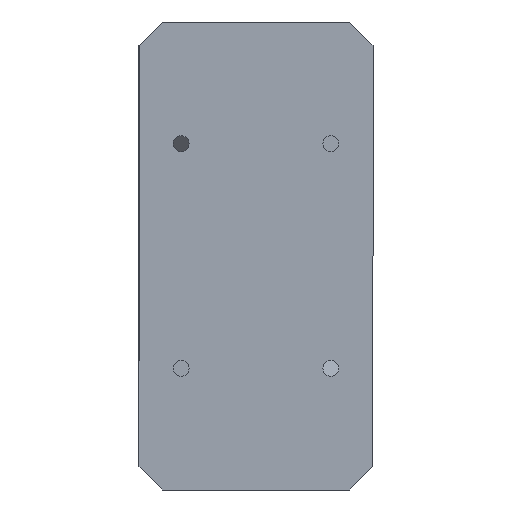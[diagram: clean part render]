
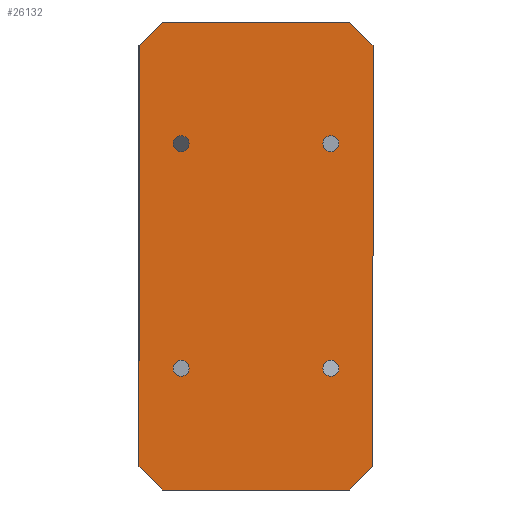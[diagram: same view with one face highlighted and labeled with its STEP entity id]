
A CAD part, front view. The second image highlights one B-rep face of the part: STEP entity #26132.
In plain terms, the highlighted planar face has unit normal (0, -1, 0) as drawn and (0, 0, 1) by its records, which use the part's own axes.
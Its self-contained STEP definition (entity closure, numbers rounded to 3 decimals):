
#1134=FACE_BOUND('',#5250,.T.);
#1135=FACE_BOUND('',#5251,.T.);
#1136=FACE_BOUND('',#5252,.T.);
#1137=FACE_BOUND('',#5253,.T.);
#1956=PLANE('',#28592);
#3701=FACE_OUTER_BOUND('',#5249,.T.);
#5249=EDGE_LOOP('',(#24656,#24657,#24658,#24659,#24660,#24661,#24662,#24663));
#5250=EDGE_LOOP('',(#24664));
#5251=EDGE_LOOP('',(#24665));
#5252=EDGE_LOOP('',(#24666));
#5253=EDGE_LOOP('',(#24667));
#7571=LINE('',#47317,#10106);
#7584=LINE('',#47357,#10119);
#7587=LINE('',#47362,#10122);
#7589=LINE('',#47366,#10124);
#7595=LINE('',#47378,#10130);
#7614=LINE('',#47427,#10149);
#7733=LINE('',#47812,#10268);
#7794=LINE('',#47945,#10329);
#10106=VECTOR('',#34753,10.);
#10119=VECTOR('',#34792,10.);
#10122=VECTOR('',#34797,10.);
#10124=VECTOR('',#34801,10.);
#10130=VECTOR('',#34809,10.);
#10149=VECTOR('',#34856,10.);
#10268=VECTOR('',#35257,10.);
#10329=VECTOR('',#35394,10.);
#11097=CIRCLE('',#28481,1.7);
#11101=CIRCLE('',#28488,1.7);
#11105=CIRCLE('',#28495,1.7);
#11109=CIRCLE('',#28502,1.7);
#13339=VERTEX_POINT('',#47314);
#13340=VERTEX_POINT('',#47316);
#13353=VERTEX_POINT('',#47354);
#13354=VERTEX_POINT('',#47356);
#13355=VERTEX_POINT('',#47360);
#13356=VERTEX_POINT('',#47364);
#13361=VERTEX_POINT('',#47376);
#13447=VERTEX_POINT('',#47622);
#13451=VERTEX_POINT('',#47635);
#13455=VERTEX_POINT('',#47648);
#13459=VERTEX_POINT('',#47661);
#13502=VERTEX_POINT('',#47810);
#16940=EDGE_CURVE('',#13340,#13339,#7571,.T.);
#16959=EDGE_CURVE('',#13353,#13354,#7584,.T.);
#16962=EDGE_CURVE('',#13353,#13355,#7587,.T.);
#16964=EDGE_CURVE('',#13356,#13355,#7589,.T.);
#16970=EDGE_CURVE('',#13356,#13361,#7595,.T.);
#16995=EDGE_CURVE('',#13340,#13361,#7614,.T.);
#17093=EDGE_CURVE('',#13447,#13447,#11097,.T.);
#17099=EDGE_CURVE('',#13451,#13451,#11101,.T.);
#17105=EDGE_CURVE('',#13455,#13455,#11105,.T.);
#17111=EDGE_CURVE('',#13459,#13459,#11109,.T.);
#17186=EDGE_CURVE('',#13502,#13339,#7733,.T.);
#17253=EDGE_CURVE('',#13502,#13354,#7794,.T.);
#24656=ORIENTED_EDGE('',*,*,#17186,.F.);
#24657=ORIENTED_EDGE('',*,*,#17253,.T.);
#24658=ORIENTED_EDGE('',*,*,#16959,.F.);
#24659=ORIENTED_EDGE('',*,*,#16962,.T.);
#24660=ORIENTED_EDGE('',*,*,#16964,.F.);
#24661=ORIENTED_EDGE('',*,*,#16970,.T.);
#24662=ORIENTED_EDGE('',*,*,#16995,.F.);
#24663=ORIENTED_EDGE('',*,*,#16940,.T.);
#24664=ORIENTED_EDGE('',*,*,#17093,.T.);
#24665=ORIENTED_EDGE('',*,*,#17099,.T.);
#24666=ORIENTED_EDGE('',*,*,#17105,.T.);
#24667=ORIENTED_EDGE('',*,*,#17111,.T.);
#26132=ADVANCED_FACE('',(#3701,#1134,#1135,#1136,#1137),#1956,.T.);
#28481=AXIS2_PLACEMENT_3D('',#47624,#35055,#35056);
#28488=AXIS2_PLACEMENT_3D('',#47637,#35071,#35072);
#28495=AXIS2_PLACEMENT_3D('',#47650,#35087,#35088);
#28502=AXIS2_PLACEMENT_3D('',#47663,#35103,#35104);
#28592=AXIS2_PLACEMENT_3D('',#47952,#35403,#35404);
#34753=DIRECTION('',(-1.,0.,0.));
#34792=DIRECTION('',(-0.707,0.707,0.));
#34797=DIRECTION('',(1.,0.,0.));
#34801=DIRECTION('',(-0.707,-0.707,0.));
#34809=DIRECTION('',(0.,1.,0.));
#34856=DIRECTION('',(0.707,-0.707,0.));
#35055=DIRECTION('center_axis',(0.,0.,-1.));
#35056=DIRECTION('ref_axis',(-1.,0.,0.));
#35071=DIRECTION('center_axis',(0.,0.,-1.));
#35072=DIRECTION('ref_axis',(-1.,0.,0.));
#35087=DIRECTION('center_axis',(0.,0.,-1.));
#35088=DIRECTION('ref_axis',(-1.,0.,0.));
#35103=DIRECTION('center_axis',(0.,0.,-1.));
#35104=DIRECTION('ref_axis',(-1.,0.,0.));
#35257=DIRECTION('',(0.707,0.707,0.));
#35394=DIRECTION('',(0.,-1.,0.));
#35403=DIRECTION('center_axis',(0.,0.,1.));
#35404=DIRECTION('ref_axis',(1.,0.,0.));
#47314=CARTESIAN_POINT('',(-32.5,25.,5.));
#47316=CARTESIAN_POINT('',(57.5,25.,5.));
#47317=CARTESIAN_POINT('',(62.5,25.,5.));
#47354=CARTESIAN_POINT('',(-32.5,-25.,5.));
#47356=CARTESIAN_POINT('',(-37.5,-20.,5.));
#47357=CARTESIAN_POINT('',(-28.75,-28.75,5.));
#47360=CARTESIAN_POINT('',(57.5,-25.,5.));
#47362=CARTESIAN_POINT('',(-37.5,-25.,5.));
#47364=CARTESIAN_POINT('',(62.5,-20.,5.));
#47366=CARTESIAN_POINT('',(53.75,-28.75,5.));
#47376=CARTESIAN_POINT('',(62.5,20.,5.));
#47378=CARTESIAN_POINT('',(62.5,-25.,5.));
#47427=CARTESIAN_POINT('',(53.75,28.75,5.));
#47622=CARTESIAN_POINT('',(38.2,16.,5.));
#47624=CARTESIAN_POINT('Origin',(36.5,16.,5.));
#47635=CARTESIAN_POINT('',(-9.8,16.,5.));
#47637=CARTESIAN_POINT('Origin',(-11.5,16.,5.));
#47648=CARTESIAN_POINT('',(38.2,-16.,5.));
#47650=CARTESIAN_POINT('Origin',(36.5,-16.,5.));
#47661=CARTESIAN_POINT('',(-9.8,-16.,5.));
#47663=CARTESIAN_POINT('Origin',(-11.5,-16.,5.));
#47810=CARTESIAN_POINT('',(-37.5,20.,5.));
#47812=CARTESIAN_POINT('',(-28.75,28.75,5.));
#47945=CARTESIAN_POINT('',(-37.5,25.,5.));
#47952=CARTESIAN_POINT('Origin',(12.5,0.,5.));
